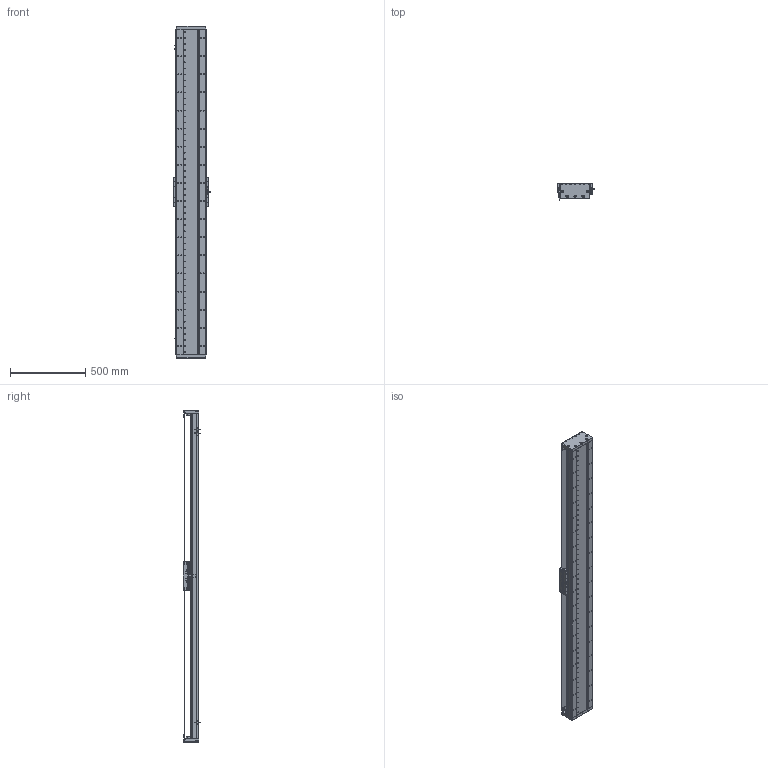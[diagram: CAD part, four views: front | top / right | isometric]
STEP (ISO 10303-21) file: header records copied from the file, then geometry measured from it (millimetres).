
FILE_DESCRIPTION (( 'STEP AP203' ), '1' );
FILE_NAME ('DA-C195-C2-T1920-C010-0.2 眻盄萇儂.STEP', '2025-08-15T01:09:25', ( '' ), ( '' ), 'SwSTEP 2.0', 'SolidWorks 2019', '' );
FILE_SCHEMA (( 'CONFIG_CONTROL_DESIGN' ));
Length unit declared in the file: millimetre
Products named in the file (15): DA195詩湍裔啣; IU-CU195-L-00 菁釱(L2160); DA195詩湍郪璃; DA95-HXJ-00 遣喳砎蝶; CU195-C2賑輸-俋楷; MS200 棠掑喜S315-T1740; DA195詩湍嶺輸; PM-T45ㄗ侂狟ㄘ; DA-C195-GD-DB-H-00 傷啣; 葩璃 DA95-GT-T-00; DA165-GYP-00 光电感应片(默认); DA195詩湍菜輸; LMT黍杅芛; DA-C195-C2-T1920-C010-0.2 眻盄萇儂; IU-CU195-L 菁釱絳寢
Assembly tree (29 placements, depth 3):
  DA-C195-C2-T1920-C010-0.2 眻盄萇儂
    DA195詩湍郪璃
      DA195詩湍菜輸  x2
      DA195詩湍裔啣
      DA195詩湍嶺輸  x2
      DA95-HXJ-00 遣喳砎蝶  x8
      DA-C195-GD-DB-H-00 傷啣  x2
    IU-CU195-L 菁釱絳寢
      IU-CU195-L-00 菁釱(L2160)
      葩璃 DA95-GT-T-00  x4
    LMT黍杅芛
    MS200 棠掑喜S315-T1740
    PM-T45ㄗ侂狟ㄘ  x3
    DA165-GYP-00 光电感应片(默认)
    CU195-C2賑輸-俋楷
Bounding box: 248 x 115.45 x 2200 mm (x, y, z)
Volume: 12937015.6 mm3; surface area: 3797930.3 mm2
Topology: 66 solids, 130 shells, 4202 faces, 11539 edges, 7239 vertices
Faces by surface type: cylinder 2191, plane 1393, cone 530, torus 52, sphere 36
Entity records: 130853 total; most frequent: CARTESIAN_POINT 34258, ORIENTED_EDGE 19962, DIRECTION 19592, EDGE_CURVE 9981, AXIS2_PLACEMENT_3D 7353, VERTEX_POINT 6441, VECTOR 4886, LINE 4886
